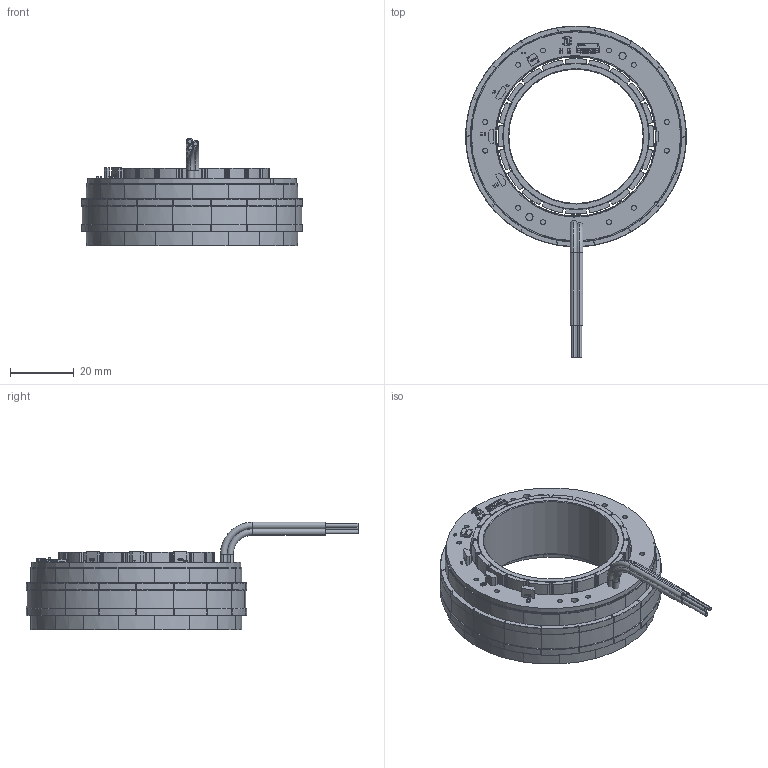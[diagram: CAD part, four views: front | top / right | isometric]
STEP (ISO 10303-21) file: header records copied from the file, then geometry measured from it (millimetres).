
FILE_DESCRIPTION (( 'STEP AP203' ), '1' );
FILE_NAME ('FL-70-10-»ô¶û.STEP', '2025-04-03T01:43:44', ( 'China' ), ( 'Microsoft' ), 'SwSTEP 2.0', 'SolidWorks 2020', '' );
FILE_SCHEMA (( 'CONFIG_CONTROL_DESIGN' ));
Length unit declared in the file: millimetre
Products named in the file (1): FL-70-10-齊嫌
Bounding box: 69 x 103.8 x 33.64 mm (x, y, z)
Surface area: 195080.5 mm2
Topology: 157 solids, 157 shells, 7802 faces, 20579 edges, 13355 vertices
Faces by surface type: plane 4320, bspline 1907, cylinder 1287, sphere 126, cone 116, torus 46
Entity records: 261912 total; most frequent: CARTESIAN_POINT 83487, ORIENTED_EDGE 40926, DIRECTION 29539, EDGE_CURVE 20463, VERTEX_POINT 13350, VECTOR 13023, LINE 13023, EDGE_LOOP 8303
